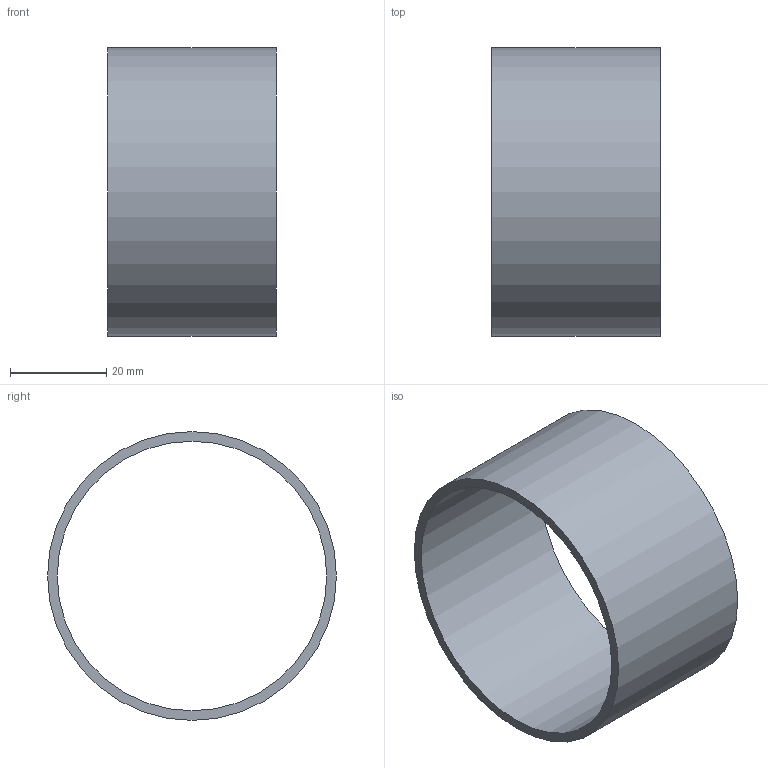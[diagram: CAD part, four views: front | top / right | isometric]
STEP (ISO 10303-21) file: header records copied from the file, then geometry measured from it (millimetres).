
FILE_DESCRIPTION(('Open CASCADE Model'),'2;1');
FILE_NAME('Open CASCADE Shape Model','2026-10-25T05:18:01',('Author'),( 'Open CASCADE'),'Open CASCADE STEP processor 7.9','Open CASCADE 7.9' ,'Unknown');
FILE_SCHEMA(('AUTOMOTIVE_DESIGN { 1 0 10303 214 1 1 1 1 }'));
Length unit declared in the file: millimetre
Products named in the file (1): Open CASCADE STEP translator 7.9 40
Bounding box: 35 x 60 x 60 mm (x, y, z)
Volume: 12754.9 mm3; surface area: 13483.7 mm2
Topology: 1 solids, 1 shells, 4 faces, 6 edges, 4 vertices
Faces by surface type: cylinder 2, plane 2
Full cylindrical faces by diameter (mm): 56 x1, 60 x1
Entity records: 186 total; most frequent: DIRECTION 32, CARTESIAN_POINT 27, ORIENTED_EDGE 12, PCURVE 12, DEFINITIONAL_REPRESENTATION 12, LINE 10, VECTOR 10, AXIS2_PLACEMENT_3D 9
